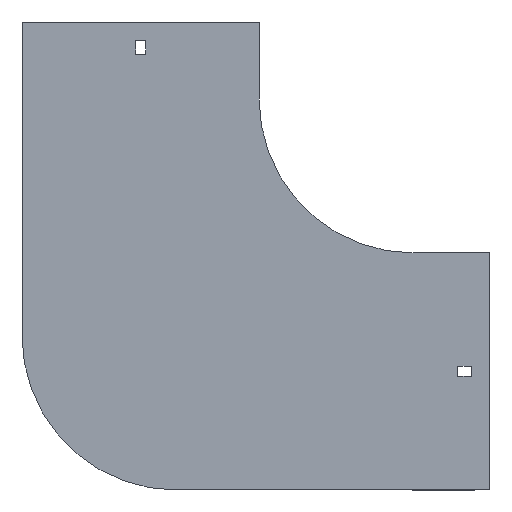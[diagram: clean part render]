
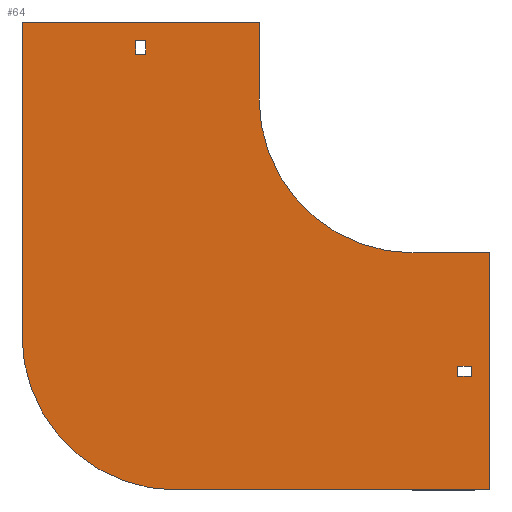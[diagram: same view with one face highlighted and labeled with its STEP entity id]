
A CAD part, front view. The second image highlights one B-rep face of the part: STEP entity #64.
In plain terms, the highlighted planar face has unit normal (0, -1, 0).
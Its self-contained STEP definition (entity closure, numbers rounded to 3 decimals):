
#8 = ORIENTED_EDGE ( 'NONE', *, *, #1736, .F. ) ;
#21 = EDGE_CURVE ( 'NONE', #1270, #613, #1862, .T. ) ;
#35 = ORIENTED_EDGE ( 'NONE', *, *, #790, .F. ) ;
#52 = LINE ( 'NONE', #74, #1070 ) ;
#54 = ORIENTED_EDGE ( 'NONE', *, *, #1616, .T. ) ;
#64 = ADVANCED_FACE ( 'NONE', ( #541, #117, #723 ), #843, .T. ) ;
#66 = VERTEX_POINT ( 'NONE', #1305 ) ;
#74 = CARTESIAN_POINT ( 'NONE',  ( 29., 0., -173.75 ) ) ;
#80 = CARTESIAN_POINT ( 'NONE',  ( -173.75, 0., 38. ) ) ;
#104 = ORIENTED_EDGE ( 'NONE', *, *, #1948, .F. ) ;
#112 = VERTEX_POINT ( 'NONE', #80 ) ;
#117 = FACE_OUTER_BOUND ( 'NONE', #1783, .T. ) ;
#122 = VECTOR ( 'NONE', #1669, 1000. ) ;
#124 = CARTESIAN_POINT ( 'NONE',  ( -154., 0., -254. ) ) ;
#136 = ORIENTED_EDGE ( 'NONE', *, *, #983, .F. ) ;
#140 = EDGE_CURVE ( 'NONE', #112, #953, #706, .T. ) ;
#183 = CARTESIAN_POINT ( 'NONE',  ( -180.25, 0., 29. ) ) ;
#190 = VERTEX_POINT ( 'NONE', #124 ) ;
#222 = CARTESIAN_POINT ( 'NONE',  ( 0., 0., -100. ) ) ;
#232 = VECTOR ( 'NONE', #627, 1000. ) ;
#252 = CIRCLE ( 'NONE', #1321, 100. ) ;
#288 = CARTESIAN_POINT ( 'NONE',  ( 50., 0., -100. ) ) ;
#304 = DIRECTION ( 'NONE',  ( 0., 0., 1. ) ) ;
#313 = ORIENTED_EDGE ( 'NONE', *, *, #1064, .F. ) ;
#314 = CARTESIAN_POINT ( 'NONE',  ( -254., 0., -154. ) ) ;
#334 = ORIENTED_EDGE ( 'NONE', *, *, #597, .F. ) ;
#336 = LINE ( 'NONE', #347, #672 ) ;
#347 = CARTESIAN_POINT ( 'NONE',  ( -254., 0., 50. ) ) ;
#351 = DIRECTION ( 'NONE',  ( 0., 0., -1. ) ) ;
#383 = AXIS2_PLACEMENT_3D ( 'NONE', #552, #1316, #1922 ) ;
#388 = ORIENTED_EDGE ( 'NONE', *, *, #1234, .T. ) ;
#394 = DIRECTION ( 'NONE',  ( 0., 1., 0. ) ) ;
#422 = VECTOR ( 'NONE', #1117, 1000. ) ;
#424 = CARTESIAN_POINT ( 'NONE',  ( -180.25, 0., 38. ) ) ;
#428 = CARTESIAN_POINT ( 'NONE',  ( 29., 0., -173.75 ) ) ;
#475 = CARTESIAN_POINT ( 'NONE',  ( 29., 0., -180.25 ) ) ;
#482 = VERTEX_POINT ( 'NONE', #1730 ) ;
#483 = EDGE_LOOP ( 'NONE', ( #677, #388, #825, #54 ) ) ;
#497 = EDGE_CURVE ( 'NONE', #1221, #190, #859, .T. ) ;
#523 = CARTESIAN_POINT ( 'NONE',  ( 29., 0., -180.25 ) ) ;
#529 = CARTESIAN_POINT ( 'NONE',  ( 29., 0., -180.25 ) ) ;
#541 = FACE_BOUND ( 'NONE', #483, .T. ) ;
#552 = CARTESIAN_POINT ( 'NONE',  ( 0., 0., 0. ) ) ;
#556 = VERTEX_POINT ( 'NONE', #424 ) ;
#571 = CARTESIAN_POINT ( 'NONE',  ( -173.75, 0., 29. ) ) ;
#581 = DIRECTION ( 'NONE',  ( -1., 0., 0. ) ) ;
#597 = EDGE_CURVE ( 'NONE', #613, #1024, #1142, .T. ) ;
#613 = VERTEX_POINT ( 'NONE', #475 ) ;
#627 = DIRECTION ( 'NONE',  ( 0., 0., 1. ) ) ;
#672 = VECTOR ( 'NONE', #952, 1000. ) ;
#677 = ORIENTED_EDGE ( 'NONE', *, *, #1190, .T. ) ;
#679 = CARTESIAN_POINT ( 'NONE',  ( -180.25, 0., 29. ) ) ;
#682 = EDGE_CURVE ( 'NONE', #839, #1693, #1624, .T. ) ;
#690 = CARTESIAN_POINT ( 'NONE',  ( -254., 0., -154. ) ) ;
#697 = VECTOR ( 'NONE', #1169, 1000. ) ;
#706 = LINE ( 'NONE', #870, #697 ) ;
#723 = FACE_BOUND ( 'NONE', #1844, .T. ) ;
#736 = CARTESIAN_POINT ( 'NONE',  ( 50., 0., -254. ) ) ;
#738 = ORIENTED_EDGE ( 'NONE', *, *, #1068, .F. ) ;
#750 = ORIENTED_EDGE ( 'NONE', *, *, #1791, .F. ) ;
#780 = LINE ( 'NONE', #920, #818 ) ;
#786 = VECTOR ( 'NONE', #581, 1000. ) ;
#790 = EDGE_CURVE ( 'NONE', #1715, #839, #780, .T. ) ;
#818 = VECTOR ( 'NONE', #1344, 1000. ) ;
#822 = ORIENTED_EDGE ( 'NONE', *, *, #497, .F. ) ;
#823 = CARTESIAN_POINT ( 'NONE',  ( 50., 0., -100. ) ) ;
#825 = ORIENTED_EDGE ( 'NONE', *, *, #140, .T. ) ;
#839 = VERTEX_POINT ( 'NONE', #902 ) ;
#843 = PLANE ( 'NONE',  #383 ) ;
#850 = VECTOR ( 'NONE', #1766, 1000. ) ;
#851 = LINE ( 'NONE', #1293, #122 ) ;
#859 = LINE ( 'NONE', #1912, #786 ) ;
#870 = CARTESIAN_POINT ( 'NONE',  ( -173.75, 0., 29. ) ) ;
#875 = VECTOR ( 'NONE', #1637, 1000. ) ;
#902 = CARTESIAN_POINT ( 'NONE',  ( -100., 0., 0. ) ) ;
#920 = CARTESIAN_POINT ( 'NONE',  ( -100., 0., 50. ) ) ;
#950 = LINE ( 'NONE', #1535, #1424 ) ;
#952 = DIRECTION ( 'NONE',  ( 1., 0., 0. ) ) ;
#953 = VERTEX_POINT ( 'NONE', #571 ) ;
#957 = VECTOR ( 'NONE', #1823, 1000. ) ;
#983 = EDGE_CURVE ( 'NONE', #1693, #1795, #851, .T. ) ;
#985 = DIRECTION ( 'NONE',  ( 0., 0., 1. ) ) ;
#1024 = VERTEX_POINT ( 'NONE', #1098 ) ;
#1042 = AXIS2_PLACEMENT_3D ( 'NONE', #1687, #1548, #351 ) ;
#1051 = VERTEX_POINT ( 'NONE', #690 ) ;
#1064 = EDGE_CURVE ( 'NONE', #66, #1270, #52, .T. ) ;
#1068 = EDGE_CURVE ( 'NONE', #190, #1051, #252, .T. ) ;
#1070 = VECTOR ( 'NONE', #1273, 1000. ) ;
#1089 = CARTESIAN_POINT ( 'NONE',  ( -254., 0., 50. ) ) ;
#1098 = CARTESIAN_POINT ( 'NONE',  ( 38., 0., -180.25 ) ) ;
#1117 = DIRECTION ( 'NONE',  ( 1., 0., 0. ) ) ;
#1121 = LINE ( 'NONE', #679, #1254 ) ;
#1142 = LINE ( 'NONE', #529, #422 ) ;
#1169 = DIRECTION ( 'NONE',  ( 0., 0., -1. ) ) ;
#1182 = LINE ( 'NONE', #183, #957 ) ;
#1190 = EDGE_CURVE ( 'NONE', #482, #556, #1121, .T. ) ;
#1221 = VERTEX_POINT ( 'NONE', #736 ) ;
#1234 = EDGE_CURVE ( 'NONE', #556, #112, #1450, .T. ) ;
#1254 = VECTOR ( 'NONE', #1557, 1000. ) ;
#1270 = VERTEX_POINT ( 'NONE', #428 ) ;
#1273 = DIRECTION ( 'NONE',  ( -1., 0., 0. ) ) ;
#1293 = CARTESIAN_POINT ( 'NONE',  ( 0., 0., -100. ) ) ;
#1305 = CARTESIAN_POINT ( 'NONE',  ( 38., 0., -173.75 ) ) ;
#1316 = DIRECTION ( 'NONE',  ( 0., -1., 0. ) ) ;
#1321 = AXIS2_PLACEMENT_3D ( 'NONE', #1722, #394, #985 ) ;
#1344 = DIRECTION ( 'NONE',  ( 0., 0., -1. ) ) ;
#1359 = CARTESIAN_POINT ( 'NONE',  ( -100., 0., 50. ) ) ;
#1419 = EDGE_CURVE ( 'NONE', #1795, #1221, #1629, .T. ) ;
#1424 = VECTOR ( 'NONE', #304, 1000. ) ;
#1430 = ORIENTED_EDGE ( 'NONE', *, *, #682, .F. ) ;
#1450 = LINE ( 'NONE', #1754, #1738 ) ;
#1535 = CARTESIAN_POINT ( 'NONE',  ( 38., 0., -180.25 ) ) ;
#1548 = DIRECTION ( 'NONE',  ( 0., -1., 0. ) ) ;
#1557 = DIRECTION ( 'NONE',  ( 0., 0., 1. ) ) ;
#1611 = DIRECTION ( 'NONE',  ( 1., 0., 0. ) ) ;
#1616 = EDGE_CURVE ( 'NONE', #953, #482, #1182, .T. ) ;
#1624 = CIRCLE ( 'NONE', #1042, 100. ) ;
#1629 = LINE ( 'NONE', #288, #875 ) ;
#1637 = DIRECTION ( 'NONE',  ( 0., 0., -1. ) ) ;
#1650 = LINE ( 'NONE', #314, #232 ) ;
#1664 = ORIENTED_EDGE ( 'NONE', *, *, #21, .F. ) ;
#1669 = DIRECTION ( 'NONE',  ( 1., 0., 0. ) ) ;
#1687 = CARTESIAN_POINT ( 'NONE',  ( 0., 0., 0. ) ) ;
#1693 = VERTEX_POINT ( 'NONE', #222 ) ;
#1715 = VERTEX_POINT ( 'NONE', #1359 ) ;
#1722 = CARTESIAN_POINT ( 'NONE',  ( -154., 0., -154. ) ) ;
#1724 = VERTEX_POINT ( 'NONE', #1089 ) ;
#1730 = CARTESIAN_POINT ( 'NONE',  ( -180.25, 0., 29. ) ) ;
#1736 = EDGE_CURVE ( 'NONE', #1024, #66, #950, .T. ) ;
#1738 = VECTOR ( 'NONE', #1611, 1000. ) ;
#1754 = CARTESIAN_POINT ( 'NONE',  ( -180.25, 0., 38. ) ) ;
#1766 = DIRECTION ( 'NONE',  ( 0., 0., -1. ) ) ;
#1783 = EDGE_LOOP ( 'NONE', ( #104, #750, #738, #822, #1797, #136, #1430, #35 ) ) ;
#1791 = EDGE_CURVE ( 'NONE', #1051, #1724, #1650, .T. ) ;
#1795 = VERTEX_POINT ( 'NONE', #823 ) ;
#1797 = ORIENTED_EDGE ( 'NONE', *, *, #1419, .F. ) ;
#1823 = DIRECTION ( 'NONE',  ( -1., 0., 0. ) ) ;
#1844 = EDGE_LOOP ( 'NONE', ( #8, #334, #1664, #313 ) ) ;
#1862 = LINE ( 'NONE', #523, #850 ) ;
#1912 = CARTESIAN_POINT ( 'NONE',  ( 50., 0., -254. ) ) ;
#1922 = DIRECTION ( 'NONE',  ( 0., 0., -1. ) ) ;
#1948 = EDGE_CURVE ( 'NONE', #1724, #1715, #336, .T. ) ;
